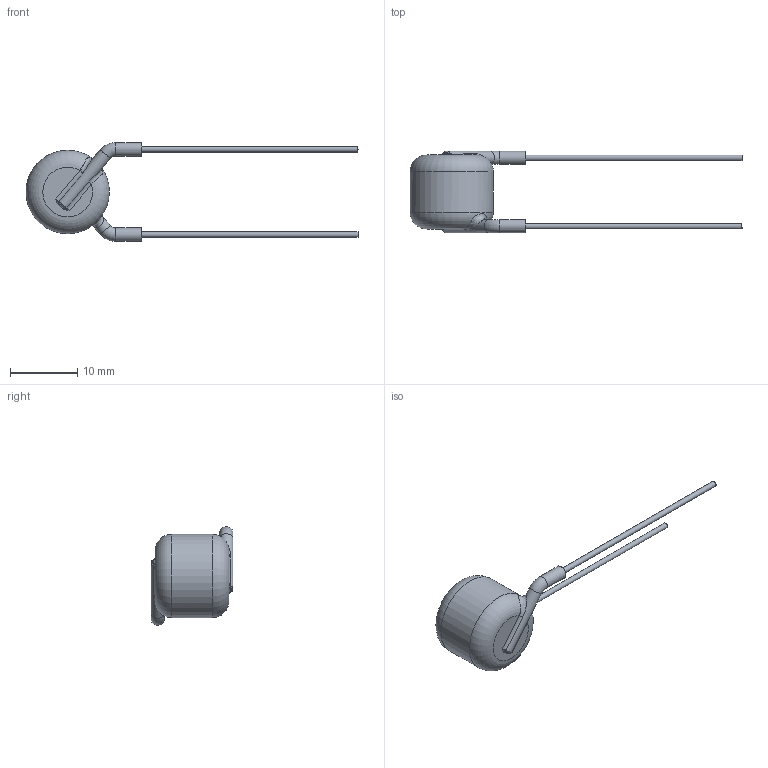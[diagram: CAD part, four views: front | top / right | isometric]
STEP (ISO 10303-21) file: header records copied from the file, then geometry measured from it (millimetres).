
FILE_DESCRIPTION((''),'2;1');
FILE_NAME('I:\Marketing\M6t1\3D-Models\Zchng-Werk-3\Upload for homepage\Ceramite\Y5R-15kV\615R150GAST25\615R150GAST25.stp','2015-08-28T12:21:42',(''),(''),'Autodesk Inventor 2013','Autodesk Inventor 2013','');
FILE_SCHEMA(('AUTOMOTIVE_DESIGN { 1 0 10303 214 1 1 1 1 }'));
Length unit declared in the file: centimetre
Products named in the file (1): 615R150GAST25
Bounding box: 49.4 x 12.19 x 14.69 mm (x, y, z)
Volume: 1333.2 mm3; surface area: 853 mm2
Topology: 1 solids, 1 shells, 42 faces, 94 edges, 52 vertices
Faces by surface type: cylinder 13, torus 11, bspline 10, plane 8
Full cylindrical faces by diameter (mm): 0.81 x2, 1.99 x4, 12.4 x1
Entity records: 1467 total; most frequent: CARTESIAN_POINT 634, DIRECTION 152, ORIENTED_EDGE 140, AXIS2_PLACEMENT_3D 70, EDGE_CURVE 70, EDGE_LOOP 54, VERTEX_POINT 44, STYLED_ITEM 42
